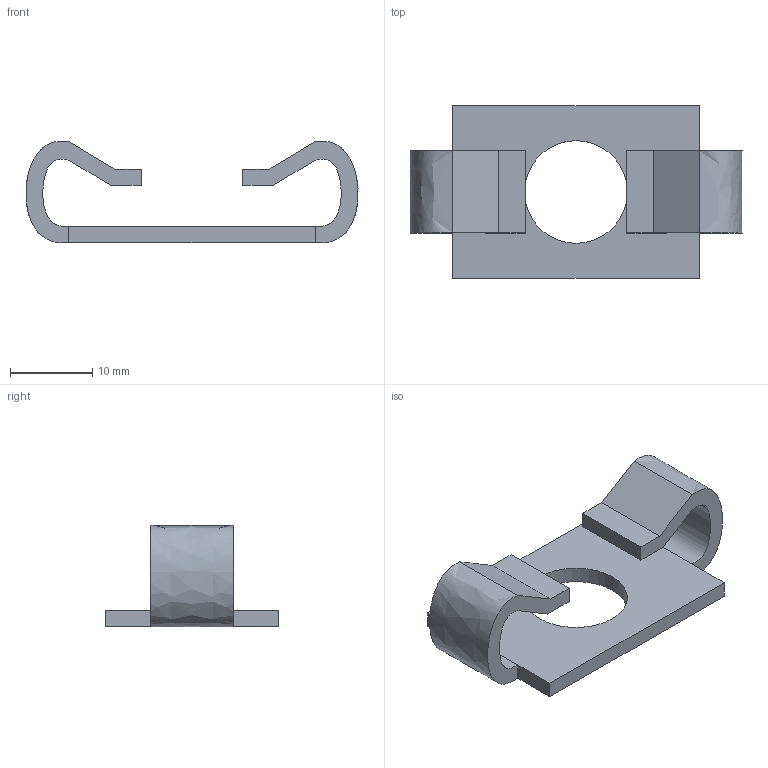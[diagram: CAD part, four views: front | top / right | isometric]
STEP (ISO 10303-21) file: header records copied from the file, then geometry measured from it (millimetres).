
FILE_DESCRIPTION (( 'STEP AP203' ), '1' );
FILE_NAME ('5125.STEP', '2017-02-14T08:23:34', ( 'RosInstal-MKM' ), ( '' ), 'SwSTEP 2.0', 'SolidWorks 2014', '' );
FILE_SCHEMA (( 'CONFIG_CONTROL_DESIGN' ));
Length unit declared in the file: millimetre
Products named in the file (1): 5125
Bounding box: 40.39 x 21 x 12.41 mm (x, y, z)
Volume: 2029.4 mm3; surface area: 2501.4 mm2
Topology: 1 solids, 1 shells, 30 faces, 76 edges, 48 vertices
Faces by surface type: plane 22, cylinder 4, bspline 4
Entity records: 1033 total; most frequent: CARTESIAN_POINT 251, ORIENTED_EDGE 152, DIRECTION 130, EDGE_CURVE 76, VECTOR 60, LINE 60, VERTEX_POINT 48, AXIS2_PLACEMENT_3D 35
